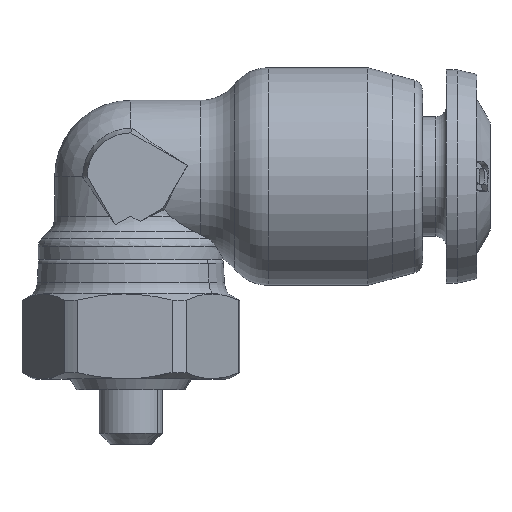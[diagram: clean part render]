
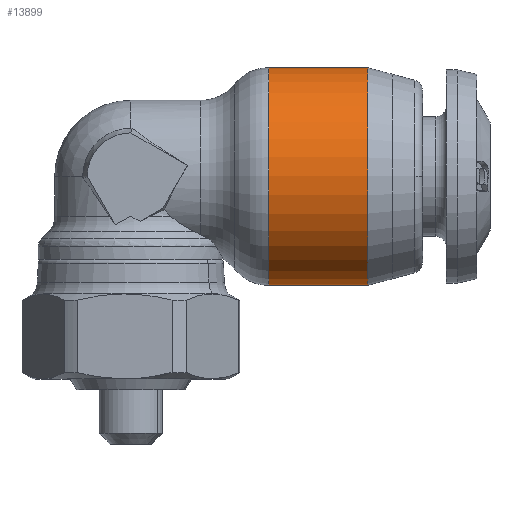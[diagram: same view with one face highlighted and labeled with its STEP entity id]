
A CAD part, top view. The second image highlights one B-rep face of the part: STEP entity #13899.
In plain terms, the highlighted cylindrical face has radius 5 mm (diameter 10 mm), a partial arc.
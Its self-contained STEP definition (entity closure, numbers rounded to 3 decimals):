
#2962 = CARTESIAN_POINT ( 'NONE',  ( 12., 0., 0. ) ) ;
#2963 = DIRECTION ( 'NONE',  ( 1., 0., 0. ) ) ;
#2971 = DIRECTION ( 'NONE',  ( 0., 1., 0. ) ) ;
#3808 = FACE_OUTER_BOUND ( 'NONE', #13546, .T. ) ;
#3813 = CYLINDRICAL_SURFACE ( 'NONE', #8661, 5. ) ;
#3968 = CIRCLE ( 'NONE', #5285, 5. ) ;
#3969 = LINE ( 'NONE', #5630, #3972 ) ;
#3970 = LINE ( 'NONE', #5636, #3975 ) ;
#3971 = CIRCLE ( 'NONE', #5287, 5. ) ;
#3972 = VECTOR ( 'NONE', #5619, 1000. ) ;
#3975 = VECTOR ( 'NONE', #5623, 1000. ) ;
#4409 = CARTESIAN_POINT ( 'NONE',  ( 10.88, 5., 0. ) ) ;
#4410 = CARTESIAN_POINT ( 'NONE',  ( 10.88, -5., 0. ) ) ;
#4411 = CARTESIAN_POINT ( 'NONE',  ( 6.328, -5., 0. ) ) ;
#4412 = CARTESIAN_POINT ( 'NONE',  ( 6.328, 5., 0. ) ) ;
#5285 = AXIS2_PLACEMENT_3D ( 'NONE', #5627, #5628, #5629 ) ;
#5287 = AXIS2_PLACEMENT_3D ( 'NONE', #5637, #5638, #5639 ) ;
#5619 = DIRECTION ( 'NONE',  ( 1., 0., 0. ) ) ;
#5623 = DIRECTION ( 'NONE',  ( 1., 0., 0. ) ) ;
#5627 = CARTESIAN_POINT ( 'NONE',  ( 6.328, 0., 0. ) ) ;
#5628 = DIRECTION ( 'NONE',  ( 1., 0., 0. ) ) ;
#5629 = DIRECTION ( 'NONE',  ( 0., 1., 0. ) ) ;
#5630 = CARTESIAN_POINT ( 'NONE',  ( 12., -5., 0. ) ) ;
#5636 = CARTESIAN_POINT ( 'NONE',  ( 12., 5., 0. ) ) ;
#5637 = CARTESIAN_POINT ( 'NONE',  ( 10.88, 0., 0. ) ) ;
#5638 = DIRECTION ( 'NONE',  ( 1., 0., 0. ) ) ;
#5639 = DIRECTION ( 'NONE',  ( 0., 1., 0. ) ) ;
#8661 = AXIS2_PLACEMENT_3D ( 'NONE', #2962, #2963, #2971 ) ;
#9999 = VERTEX_POINT ( 'NONE', #4409 ) ;
#10000 = VERTEX_POINT ( 'NONE', #4410 ) ;
#10001 = VERTEX_POINT ( 'NONE', #4411 ) ;
#10002 = VERTEX_POINT ( 'NONE', #4412 ) ;
#10374 = ORIENTED_EDGE ( 'NONE', *, *, #15269, .T. ) ;
#10375 = ORIENTED_EDGE ( 'NONE', *, *, #15273, .T. ) ;
#10376 = ORIENTED_EDGE ( 'NONE', *, *, #15276, .F. ) ;
#10377 = ORIENTED_EDGE ( 'NONE', *, *, #15278, .F. ) ;
#13546 = EDGE_LOOP ( 'NONE', ( #10374, #10375, #10376, #10377 ) ) ;
#13899 = ADVANCED_FACE ( 'NONE', ( #3808 ), #3813, .T. ) ;
#15269 = EDGE_CURVE ( 'NONE', #10002, #10001, #3968, .T. ) ;
#15273 = EDGE_CURVE ( 'NONE', #10001, #10000, #3969, .T. ) ;
#15276 = EDGE_CURVE ( 'NONE', #9999, #10000, #3971, .T. ) ;
#15278 = EDGE_CURVE ( 'NONE', #10002, #9999, #3970, .T. ) ;
